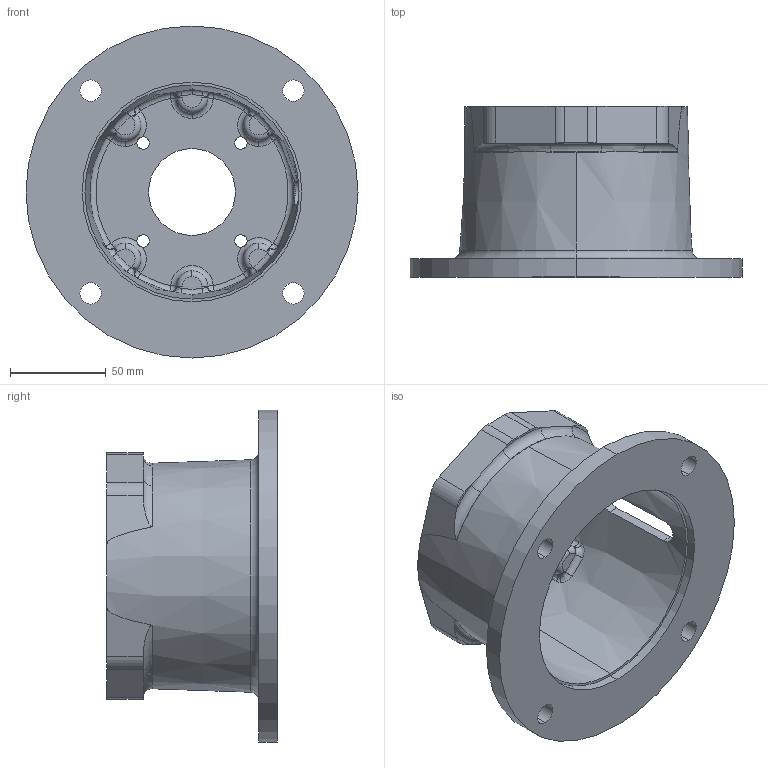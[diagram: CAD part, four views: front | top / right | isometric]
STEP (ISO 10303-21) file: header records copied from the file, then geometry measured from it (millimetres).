
FILE_DESCRIPTION (( 'STEP AP203' ), '1' );
FILE_NAME ('M056354F.STEP', '2008-05-16T19:23:46', ( 'Chris McCoy' ), ( 'Magnaloy Coupling Co' ), 'SwSTEP 2.0', 'SolidWorks 2008', '' );
FILE_SCHEMA (( 'CONFIG_CONTROL_DESIGN' ));
Length unit declared in the file: inch
Products named in the file (1): M056354F
Bounding box: 172.97 x 88.9 x 172.97 mm (x, y, z)
Volume: 351511.9 mm3; surface area: 108006.1 mm2
Topology: 1 solids, 1 shells, 203 faces, 522 edges, 308 vertices
Faces by surface type: torus 56, cylinder 44, bspline 40, plane 29, sphere 24, cone 10
Entity records: 7923 total; most frequent: CARTESIAN_POINT 3046, DIRECTION 1062, ORIENTED_EDGE 1020, EDGE_CURVE 510, AXIS2_PLACEMENT_3D 488, CIRCLE 324, VERTEX_POINT 308, EDGE_LOOP 222
